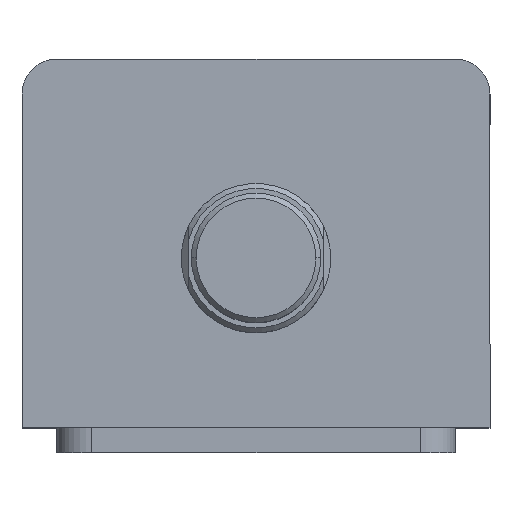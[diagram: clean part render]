
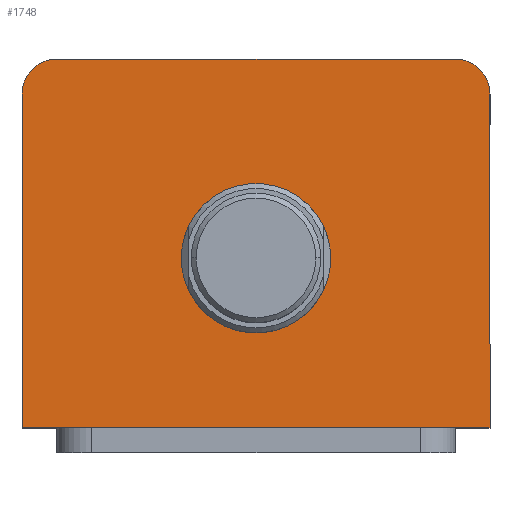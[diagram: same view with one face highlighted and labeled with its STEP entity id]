
A CAD part, top view. The second image highlights one B-rep face of the part: STEP entity #1748.
In plain terms, the highlighted planar face has unit normal (0, 0, 1).
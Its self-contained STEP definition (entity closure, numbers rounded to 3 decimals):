
#23 = VERTEX_POINT ( 'NONE', #1539 ) ;
#43 = VERTEX_POINT ( 'NONE', #1497 ) ;
#44 = VERTEX_POINT ( 'NONE', #1485 ) ;
#47 = VERTEX_POINT ( 'NONE', #1483 ) ;
#48 = VERTEX_POINT ( 'NONE', #1489 ) ;
#271 = ORIENTED_EDGE ( 'NONE', *, *, #2472, .F. ) ;
#272 = ORIENTED_EDGE ( 'NONE', *, *, #2770, .F. ) ;
#273 = ORIENTED_EDGE ( 'NONE', *, *, #2830, .T. ) ;
#335 = EDGE_LOOP ( 'NONE', ( #273, #630, #633, #629, #627, #632 ) ) ;
#346 = EDGE_LOOP ( 'NONE', ( #271, #272 ) ) ;
#627 = ORIENTED_EDGE ( 'NONE', *, *, #2488, .T. ) ;
#629 = ORIENTED_EDGE ( 'NONE', *, *, #2803, .T. ) ;
#630 = ORIENTED_EDGE ( 'NONE', *, *, #2447, .T. ) ;
#632 = ORIENTED_EDGE ( 'NONE', *, *, #2439, .T. ) ;
#633 = ORIENTED_EDGE ( 'NONE', *, *, #2456, .T. ) ;
#651 = FACE_OUTER_BOUND ( 'NONE', #335, .T. ) ;
#655 = FACE_BOUND ( 'NONE', #346, .T. ) ;
#738 = CIRCLE ( 'NONE', #1001, 15. ) ;
#786 = LINE ( 'NONE', #2675, #788 ) ;
#788 = VECTOR ( 'NONE', #2673, 1000. ) ;
#828 = LINE ( 'NONE', #2547, #831 ) ;
#831 = VECTOR ( 'NONE', #2546, 1000. ) ;
#1001 = AXIS2_PLACEMENT_3D ( 'NONE', #2613, #2611, #2618 ) ;
#1019 = AXIS2_PLACEMENT_3D ( 'NONE', #1917, #1915, #1914 ) ;
#1025 = AXIS2_PLACEMENT_3D ( 'NONE', #1986, #1983, #1982 ) ;
#1032 = AXIS2_PLACEMENT_3D ( 'NONE', #2017, #2015, #2014 ) ;
#1225 = VERTEX_POINT ( 'NONE', #1317 ) ;
#1229 = VERTEX_POINT ( 'NONE', #1299 ) ;
#1299 = CARTESIAN_POINT ( 'NONE',  ( 40., 37., 70. ) ) ;
#1317 = CARTESIAN_POINT ( 'NONE',  ( -47., -37., 70. ) ) ;
#1483 = CARTESIAN_POINT ( 'NONE',  ( 47., 30., 70. ) ) ;
#1485 = CARTESIAN_POINT ( 'NONE',  ( 15., -3., 70. ) ) ;
#1489 = CARTESIAN_POINT ( 'NONE',  ( -47., 30., 70. ) ) ;
#1497 = CARTESIAN_POINT ( 'NONE',  ( 47., -37., 70. ) ) ;
#1539 = CARTESIAN_POINT ( 'NONE',  ( -40., 37., 70. ) ) ;
#1680 = DIRECTION ( 'NONE',  ( 1., 0., 0. ) ) ;
#1681 = DIRECTION ( 'NONE',  ( 0., 0., 1. ) ) ;
#1682 = CARTESIAN_POINT ( 'NONE',  ( 0., 0., 70. ) ) ;
#1685 = PLANE ( 'NONE',  #2288 ) ;
#1687 = CARTESIAN_POINT ( 'NONE',  ( -15., -3., 70. ) ) ;
#1740 = VERTEX_POINT ( 'NONE', #1687 ) ;
#1748 = ADVANCED_FACE ( 'NONE', ( #655, #651 ), #1685, .T. ) ;
#1873 = DIRECTION ( 'NONE',  ( 0., 1., 0. ) ) ;
#1874 = CARTESIAN_POINT ( 'NONE',  ( 47., 37., 70. ) ) ;
#1914 = DIRECTION ( 'NONE',  ( 1., 0., 0. ) ) ;
#1915 = DIRECTION ( 'NONE',  ( 0., 0., 1. ) ) ;
#1917 = CARTESIAN_POINT ( 'NONE',  ( 0., -3., 70. ) ) ;
#1954 = DIRECTION ( 'NONE',  ( 0., -1., 0. ) ) ;
#1955 = CARTESIAN_POINT ( 'NONE',  ( -47., 37., 70. ) ) ;
#1982 = DIRECTION ( 'NONE',  ( 1., 0., 0. ) ) ;
#1983 = DIRECTION ( 'NONE',  ( 0., 0., 1. ) ) ;
#1986 = CARTESIAN_POINT ( 'NONE',  ( -40., 30., 70. ) ) ;
#2014 = DIRECTION ( 'NONE',  ( 1., 0., 0. ) ) ;
#2015 = DIRECTION ( 'NONE',  ( 0., 0., 1. ) ) ;
#2017 = CARTESIAN_POINT ( 'NONE',  ( 40., 30., 70. ) ) ;
#2288 = AXIS2_PLACEMENT_3D ( 'NONE', #1682, #1681, #1680 ) ;
#2439 = EDGE_CURVE ( 'NONE', #47, #1229, #3020, .T. ) ;
#2447 = EDGE_CURVE ( 'NONE', #23, #48, #3015, .T. ) ;
#2456 = EDGE_CURVE ( 'NONE', #48, #1225, #3035, .T. ) ;
#2472 = EDGE_CURVE ( 'NONE', #44, #1740, #3067, .T. ) ;
#2488 = EDGE_CURVE ( 'NONE', #43, #47, #3093, .T. ) ;
#2546 = DIRECTION ( 'NONE',  ( -1., 0., 0. ) ) ;
#2547 = CARTESIAN_POINT ( 'NONE',  ( -47., 37., 70. ) ) ;
#2611 = DIRECTION ( 'NONE',  ( 0., 0., 1. ) ) ;
#2613 = CARTESIAN_POINT ( 'NONE',  ( 0., -3., 70. ) ) ;
#2618 = DIRECTION ( 'NONE',  ( 1., 0., 0. ) ) ;
#2673 = DIRECTION ( 'NONE',  ( 1., 0., 0. ) ) ;
#2675 = CARTESIAN_POINT ( 'NONE',  ( -47., -37., 70. ) ) ;
#2770 = EDGE_CURVE ( 'NONE', #1740, #44, #738, .T. ) ;
#2803 = EDGE_CURVE ( 'NONE', #1225, #43, #786, .T. ) ;
#2830 = EDGE_CURVE ( 'NONE', #1229, #23, #828, .T. ) ;
#3015 = CIRCLE ( 'NONE', #1025, 7. ) ;
#3020 = CIRCLE ( 'NONE', #1032, 7. ) ;
#3035 = LINE ( 'NONE', #1955, #3038 ) ;
#3038 = VECTOR ( 'NONE', #1954, 1000. ) ;
#3067 = CIRCLE ( 'NONE', #1019, 15. ) ;
#3093 = LINE ( 'NONE', #1874, #3096 ) ;
#3096 = VECTOR ( 'NONE', #1873, 1000. ) ;
